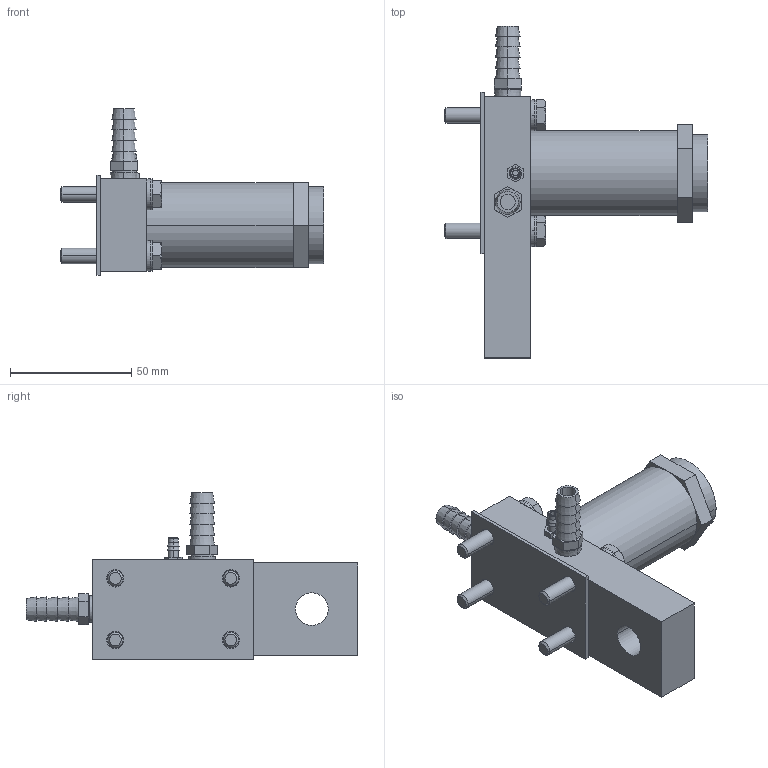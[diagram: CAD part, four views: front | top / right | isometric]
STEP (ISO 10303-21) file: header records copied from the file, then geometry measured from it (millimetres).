
FILE_DESCRIPTION((''),'2;1');
FILE_NAME('XH3_ASM','2017-08-24T',('jennifer.elliott'),('CenterLine (Windsor) Ltd - Automation Components Division'),'PRO/ENGINEER BY PARAMETRIC TECHNOLOGY CORPORATION, 2015030','PRO/ENGINEER BY PARAMETRIC TECHNOLOGY CORPORATION, 2015030','');
FILE_SCHEMA(('AUTOMOTIVE_DESIGN { 1 0 10303 214 1 1 1 1 }'));
Length unit declared in the file: inch
Products named in the file (21): PRT1161; PRT1162; PRT1163; PRT1164; PRT1165; PRT1166; PRT1167; PRT1168; PRT1169; PRT1170; PRT1171; PRT1172; PRT1173; PRT1174; PRT1175; PRT1176; PRT1177; PRT1178; PRT1179; PRT1180; XH3_ASM
Assembly tree (20 placements, depth 2):
  XH3_ASM
    PRT1161
    PRT1162
    PRT1163
    PRT1164
    PRT1165
    PRT1166
    PRT1167
    PRT1168
    PRT1169
    PRT1170
    PRT1171
    PRT1172
    PRT1173
    PRT1174
    PRT1175
    PRT1176
    PRT1177
    PRT1178
    PRT1179
    PRT1180
Bounding box: 108.78 x 136.91 x 68.64 mm (x, y, z)
Volume: 155513.2 mm3; surface area: 47784.5 mm2
Topology: 20 solids, 20 shells, 269 faces, 578 edges, 374 vertices
Faces by surface type: plane 121, cylinder 84, cone 60, torus 4
Entity records: 8931 total; most frequent: CARTESIAN_POINT 1575, DIRECTION 1416, ORIENTED_EDGE 1156, EDGE_CURVE 578, AXIS2_PLACEMENT_3D 576, VERTEX_POINT 374, EDGE_LOOP 334, FACE_OUTER_BOUND 269
